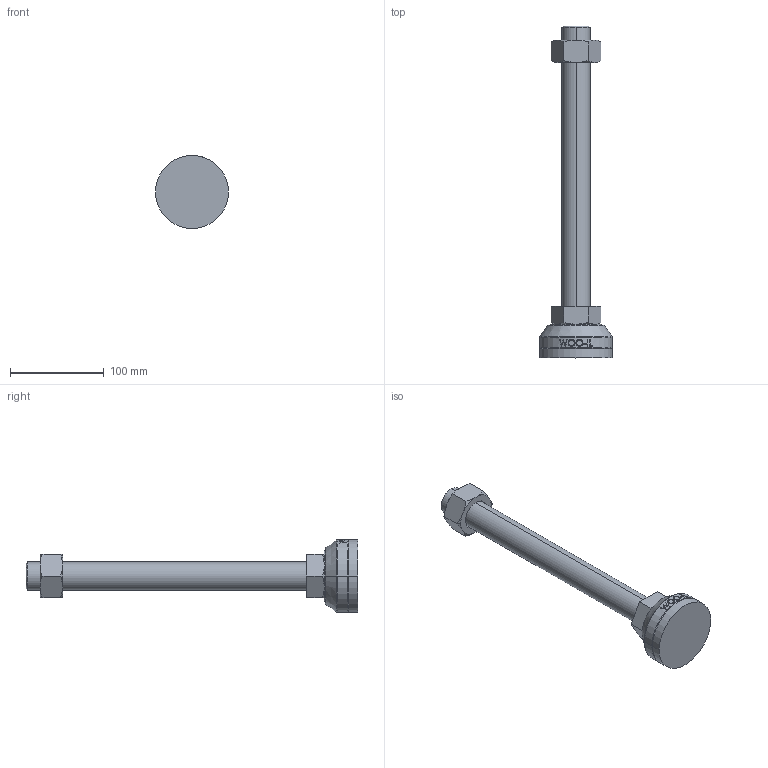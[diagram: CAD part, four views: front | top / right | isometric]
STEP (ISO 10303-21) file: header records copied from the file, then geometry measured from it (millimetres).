
FILE_DESCRIPTION (( 'STEP AP214' ), '1' );
FILE_NAME ('MFR78-M30-300.step', '2021-01-13T05:41:44', ( '' ), ( '' ), 'SwSTEP 2.0', 'SolidWorks 2019', '' );
FILE_SCHEMA (( 'AUTOMOTIVE_DESIGN' ));
Length unit declared in the file: millimetre
Products named in the file (2): MFR78-M30-300
Bounding box: 78 x 355 x 78 mm (x, y, z)
Volume: 430127.7 mm3; surface area: 68958.7 mm2
Topology: 4 solids, 4 shells, 118 faces, 283 edges, 183 vertices
Faces by surface type: plane 49, cone 29, cylinder 18, bspline 16, torus 6
Entity records: 4990 total; most frequent: CARTESIAN_POINT 2312, ORIENTED_EDGE 566, DIRECTION 492, EDGE_CURVE 283, AXIS2_PLACEMENT_3D 189, VERTEX_POINT 183, EDGE_LOOP 130, FACE_OUTER_BOUND 118
